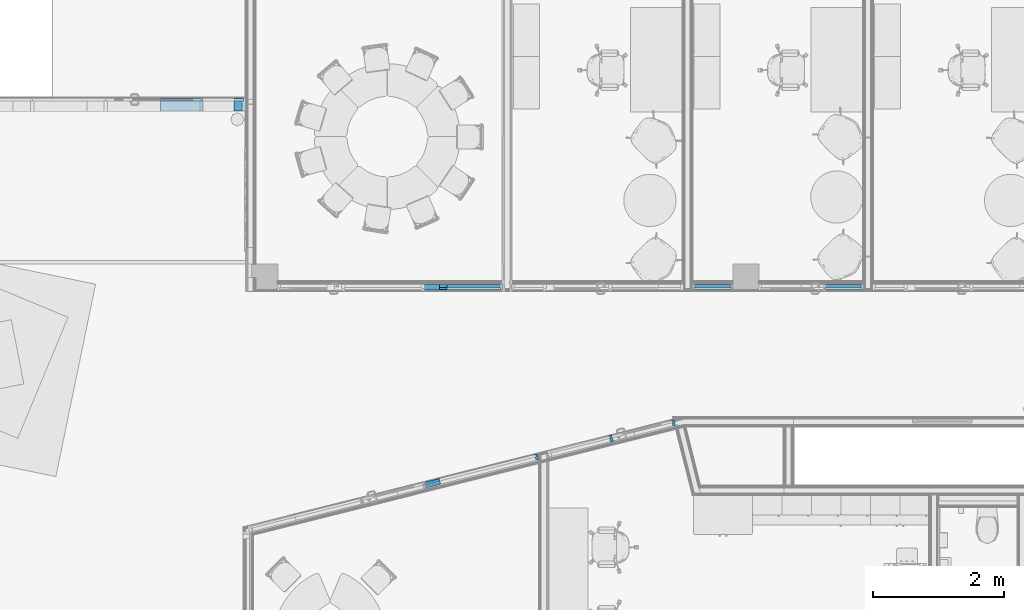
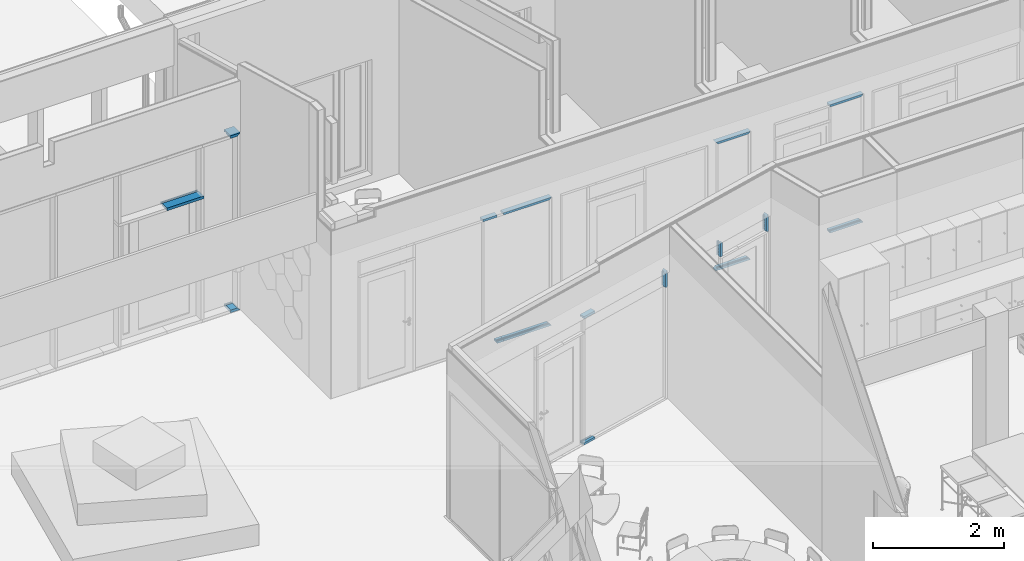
# One storey, part 36 of 153: 16 members, 6 elements without a shape of their own.
"""IFC2X3 building model written with IfcOpenShell, lengths in millimetres."""

from ifc_helpers import new_model, entity, si_unit, converted_unit, derived_unit, money_unit, direction, frame, origin_with_axes, place, context, subcontext, project, spatial, faceted_brep, material, type_object, element, aggregate, save


model = new_model("IFC2X3")

# Units and contexts
model_context = context("Model", 3, precision=0.01, world=origin_with_axes(), true_north=direction((0.0, 1.0)))
body_context = subcontext(model_context, "Body", "Model", "MODEL_VIEW")
ifc_project = project(units=[si_unit("LENGTHUNIT", "METRE", prefix="MILLI"), si_unit("AREAUNIT", "SQUARE_METRE"), si_unit("VOLUMEUNIT", "CUBIC_METRE"), converted_unit("PLANEANGLEUNIT", "DEGREE", entity("IfcPlaneAngleMeasure", 0.0174532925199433), si_unit("PLANEANGLEUNIT", "RADIAN"), dimensions=[0, 0, 0, 0, 0, 0, 0]), money_unit("EUR"), converted_unit("TIMEUNIT", "Year", entity("IfcTimeMeasure", 31557600.0), si_unit("TIMEUNIT", "SECOND"), dimensions=[0, 0, 1, 0, 0, 0, 0]), si_unit("MASSUNIT", "GRAM", prefix="KILO"), si_unit("THERMODYNAMICTEMPERATUREUNIT", "DEGREE_CELSIUS"), si_unit("LUMINOUSINTENSITYUNIT", "LUMEN"), si_unit("ENERGYUNIT", "JOULE", prefix="MEGA"), derived_unit("THERMALCONDUCTANCEUNIT", [(si_unit("POWERUNIT", "WATT"), 1), (si_unit("LENGTHUNIT", "METRE"), -1), (si_unit("THERMODYNAMICTEMPERATUREUNIT", "KELVIN"), -1)]), derived_unit("SPECIFICHEATCAPACITYUNIT", [(si_unit("ENERGYUNIT", "JOULE"), 1), (si_unit("MASSUNIT", "GRAM", prefix="KILO"), -1), (si_unit("THERMODYNAMICTEMPERATUREUNIT", "KELVIN"), -1)]), derived_unit("MASSDENSITYUNIT", [(si_unit("MASSUNIT", "GRAM", prefix="KILO"), 1), (si_unit("VOLUMEUNIT", "CUBIC_METRE"), -1)])], contexts=[model_context])

# Site, building, storey
site_placement = place(None, frame((0.0, 0.0, 8650.0), z_axis=(0.0, 0.0, 1.0), x_axis=(1.0, 0.0, 0.0)))
site = spatial("IfcSite", under=ifc_project, at=site_placement, Name="43301:001:0844", CompositionType="ELEMENT")
building_placement = place(site_placement, origin_with_axes())
building = spatial("IfcBuilding", under=site, at=building_placement, Name="Kuressaare Ametikooli tuulikute mehaanikute õppekorpus", CompositionType="ELEMENT")
storey_placement = place(building_placement, frame((0.0, 0.0, 4100.0), z_axis=(0.0, 0.0, 1.0), x_axis=(1.0, 0.0, 0.0)))
storey = spatial("IfcBuildingStorey", under=building, at=storey_placement, Name="2.korrus", CompositionType="ELEMENT", Elevation=4100.0)

# Curtain wall, members
curtain_wall_type = type_object("IfcCurtainWallType", Name="Curtain Wall Type", PredefinedType="NOTDEFINED")
curtain_wall_1_placement = place(storey_placement, frame((116907.3849272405, 26479.57374875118, 34.9999663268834), z_axis=(0.0, 0.0, 1.0), x_axis=(1.0, 0.0, 0.0)))
curtain_wall_1 = element("IfcCurtainWall", 1, at=curtain_wall_1_placement, inside=storey, type_object=curtain_wall_type, Name="SKF-2.2,EI60")
ifc_material = material(Name="Aluminium")
member_type_1 = type_object("IfcMemberType", Name="Boundary Frame 50 x 200", PredefinedType="NOTDEFINED")
member_1_placement = place(curtain_wall_1_placement, frame((1338.89088704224, 0.0, 3260.000027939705), z_axis=(-0.9999999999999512, 0.0, -3.126092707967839e-07), x_axis=(3.126092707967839e-07, 0.0, -0.9999999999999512)))
member_1 = element("IfcMember", 2, at=member_1_placement, type_object=member_type_1, material=ifc_material, context=body_context, shape_type="Brep", body=[
    faceted_brep([(4.999955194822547, 19.99999999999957, 143.3264490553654), (24.99995519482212, 19.99999999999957, 143.3264553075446), (24.99995519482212, 170.0000000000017, 143.3264553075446), (-25.00004480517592, 170.0000000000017, 143.3264396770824), (-25.00004480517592, -30.00000000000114, 143.3264396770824), (24.99995519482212, -30.00000000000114, 143.3264553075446), (24.99995519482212, -19.99999999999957, 143.3264553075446), (4.999955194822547, -19.99999999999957, 143.3264490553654), (4.999998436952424, 19.99999999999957, 5.000003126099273), (24.99999218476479, 19.99999999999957, 25.00001563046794), (24.99999218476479, 170.0000000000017, 25.00001563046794), (-24.99999218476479, 170.0000000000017, -25.00001563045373), (-24.99999218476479, -30.00000000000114, -25.00001563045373), (24.99999218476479, -30.00000000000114, 25.00001563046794), (24.99999218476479, -19.99999999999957, 25.00001563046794), (4.999998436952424, -19.99999999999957, 5.000003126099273)], [[[0, 1, 2, 3, 4, 5, 6, 7]], [[0, 8, 9, 1]], [[9, 10, 2, 1]], [[2, 10, 11, 3]], [[3, 11, 12, 4]], [[4, 12, 13, 5]], [[6, 5, 13, 14]], [[14, 15, 7, 6]], [[7, 15, 8, 0]], [[8, 15, 14, 13, 12, 11, 10, 9]]]),
])
member_2_placement = place(curtain_wall_1_placement, frame((1195.564447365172, 0.0, 0.0), z_axis=(1.0, 0.0, 0.0), x_axis=(0.0, 0.0, 1.0)))
member_2 = element("IfcMember", 3, at=member_2_placement, type_object=member_type_1, material=ifc_material, context=body_context, shape_type="Brep", body=[
    faceted_brep([(4.999999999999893, 19.99999999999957, 138.3264396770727), (25.00000000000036, 19.99999999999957, 118.3264396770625), (25.00000000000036, 170.0000000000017, 118.3264396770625), (-25.00000000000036, 170.0000000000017, 168.3264396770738), (-25.00000000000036, -30.00000000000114, 168.3264396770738), (25.00000000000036, -30.00000000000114, 118.3264396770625), (25.00000000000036, -19.99999999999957, 118.3264396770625), (4.999999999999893, -19.99999999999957, 138.3264396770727), (4.999999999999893, 19.99999999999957, 0.0), (25.00000000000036, 19.99999999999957, 0.0), (25.00000000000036, 170.0000000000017, 0.0), (-25.00000000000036, 170.0000000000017, 0.0), (-25.00000000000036, -30.00000000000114, 0.0), (25.00000000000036, -30.00000000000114, 0.0), (25.00000000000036, -19.99999999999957, 0.0), (4.999999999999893, -19.99999999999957, 0.0)], [[[0, 1, 2, 3, 4, 5, 6, 7]], [[0, 8, 9, 1]], [[9, 10, 2, 1]], [[10, 11, 3, 2]], [[11, 12, 4, 3]], [[12, 13, 5, 4]], [[6, 5, 13, 14]], [[14, 15, 7, 6]], [[7, 15, 8, 0]], [[8, 15, 14, 13, 12, 11, 10, 9]]]),
])
member_3_placement = place(curtain_wall_1_placement, frame((70.56444736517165, 0.0, 2300.000031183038), z_axis=(1.0, 0.0, 0.0), x_axis=(0.0, 0.0, 1.0)))
member_3 = element("IfcMember", 4, at=member_3_placement, type_object=member_type_1, material=ifc_material, context=body_context, shape_type="Brep", body=[
    faceted_brep([(-4.999999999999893, 19.99999999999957, 649.1533342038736), (-4.999999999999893, -19.99999999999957, 649.1533342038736), (-25.00000000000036, -19.99999999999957, 649.1533342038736), (-25.00000000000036, -30.00000000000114, 649.1533342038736), (25.00000000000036, -30.00000000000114, 649.1533342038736), (25.00000000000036, -19.99999999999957, 649.1533342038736), (4.999999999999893, -19.99999999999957, 649.1533342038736), (4.999999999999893, 19.99999999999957, 649.1533342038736), (25.00000000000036, 19.99999999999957, 649.1533342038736), (25.00000000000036, 170.0000000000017, 649.1533342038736), (-25.00000000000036, 170.0000000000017, 649.1533342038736), (-25.00000000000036, 19.99999999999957, 649.1533342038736), (-4.999999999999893, 19.99999999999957, 0.0), (-4.999999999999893, -19.99999999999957, 0.0), (-25.00000000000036, -19.99999999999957, 0.0), (-25.00000000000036, -30.00000000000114, 0.0), (25.00000000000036, -30.00000000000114, 0.0), (25.00000000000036, -19.99999999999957, 0.0), (4.999999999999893, -19.99999999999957, 0.0), (4.999999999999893, 19.99999999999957, 0.0), (25.00000000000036, 19.99999999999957, 0.0), (25.00000000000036, 170.0000000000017, 0.0), (-25.00000000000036, 170.0000000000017, 0.0), (-25.00000000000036, 19.99999999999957, 0.0)], [[[0, 1, 2, 3, 4, 5, 6, 7, 8, 9, 10, 11]], [[0, 12, 13, 1]], [[1, 13, 14, 2]], [[14, 15, 3, 2]], [[3, 15, 16, 4]], [[17, 5, 4, 16]], [[5, 17, 18, 6]], [[7, 6, 18, 19]], [[8, 7, 19, 20]], [[8, 20, 21, 9]], [[9, 21, 22, 10]], [[11, 10, 22, 23]], [[11, 23, 12, 0]], [[13, 12, 23, 22, 21, 20, 19, 18, 17, 16, 15, 14]]]),
])
aggregate(curtain_wall_1, [member_1, member_2, member_3])

curtain_wall_2_placement = place(storey_placement, frame((120547.3158940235, 20502.05468019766, 0.0), z_axis=(0.0, 0.0, 1.0), x_axis=(1.0, 0.0, 0.0)))
curtain_wall_2 = element("IfcCurtainWall", 5, at=curtain_wall_2_placement, inside=storey, type_object=curtain_wall_type, Name="PKF-2.2")
member_type_2 = type_object("IfcMemberType", Name="Boundary Frame 40 x 90", PredefinedType="NOTDEFINED")
member_4_placement = place(curtain_wall_2_placement, frame((691.717600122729, 173.4091667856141, 0.0), z_axis=(-0.9699839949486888, -0.2431687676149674, 0.0), x_axis=(0.0, 0.0, 1.0)))
member_4 = element("IfcMember", 6, at=member_4_placement, type_object=member_type_2, material=ifc_material, context=body_context, shape_type="Brep", body=[
    faceted_brep([(25.00000000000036, -14.99999999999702, 232.1839993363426), (25.00000000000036, 15.00000000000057, 232.1839993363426), (40.00000000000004, 15.00000000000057, 232.1839993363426), (40.00000000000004, 25.00000000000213, 232.1839993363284), (0.0, 25.00000000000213, 232.1839993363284), (0.0, 0.0, 232.1839993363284), (0.0, -64.99999999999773, 232.1839993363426), (40.00000000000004, -64.99999999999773, 232.1839993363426), (40.00000000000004, -14.99999999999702, 232.1839993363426), (25.00000000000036, -14.99999999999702, 0.0), (25.00000000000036, 14.99999999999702, 0.0), (40.00000000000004, 14.99999999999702, 0.0), (40.00000000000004, 24.99999999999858, 0.0), (0.0, 24.99999999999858, 0.0), (0.0, 0.0, 0.0), (0.0, -64.99999999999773, 0.0), (40.00000000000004, -64.99999999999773, 0.0), (40.00000000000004, -14.99999999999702, 0.0)], [[[0, 1, 2, 3, 4, 5, 6, 7, 8]], [[1, 0, 9, 10]], [[11, 2, 1, 10]], [[2, 11, 12, 3]], [[13, 4, 3, 12]], [[14, 5, 4, 13]], [[15, 6, 5, 14]], [[16, 7, 6, 15]], [[17, 8, 7, 16]], [[0, 8, 17, 9]], [[9, 17, 16, 15, 14, 13, 12, 11, 10]]]),
])
member_5_placement = place(curtain_wall_2_placement, frame((691.717600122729, 173.4091667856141, 2400.000049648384), z_axis=(-0.9699839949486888, -0.2431687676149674, 0.0), x_axis=(0.0, 0.0, 1.0)))
member_5 = element("IfcMember", 7, at=member_5_placement, type_object=member_type_2, material=ifc_material, context=body_context, shape_type="Brep", body=[
    faceted_brep([(-25.00000000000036, -14.99999999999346, 232.1839993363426), (-40.00000000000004, -14.99999999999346, 232.1839993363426), (-40.00000000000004, -64.99999999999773, 232.1839993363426), (0.0, -64.99999999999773, 232.1839993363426), (0.0, 0.0, 232.1839993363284), (0.0, 24.99999999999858, 232.1839993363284), (-40.00000000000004, 24.99999999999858, 232.1839993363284), (-40.00000000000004, 14.99999999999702, 232.1839993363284), (-25.00000000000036, 14.99999999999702, 232.1839993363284), (-25.00000000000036, -14.99999999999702, 0.0), (-40.00000000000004, -14.99999999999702, 0.0), (-40.00000000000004, -64.99999999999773, 0.0), (0.0, -64.99999999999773, 0.0), (0.0, 0.0, 0.0), (0.0, 24.99999999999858, 0.0), (-40.00000000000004, 24.99999999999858, 0.0), (-40.00000000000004, 14.99999999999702, 0.0), (-25.00000000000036, 14.99999999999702, 0.0)], [[[0, 1, 2, 3, 4, 5, 6, 7, 8]], [[0, 9, 10, 1]], [[10, 11, 2, 1]], [[11, 12, 3, 2]], [[12, 13, 4, 3]], [[13, 14, 5, 4]], [[14, 15, 6, 5]], [[7, 6, 15, 16]], [[16, 17, 8, 7]], [[8, 17, 9, 0]], [[9, 17, 16, 15, 14, 13, 12, 11, 10]]]),
])
member_6_placement = place(curtain_wall_2_placement, frame((2187.842480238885, 548.4780804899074, 2400.000049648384), z_axis=(0.0, 0.0, -1.0), x_axis=(-0.9699839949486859, -0.2431687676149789, 0.0)))
member_6 = element("IfcMember", 8, at=member_6_placement, type_object=member_type_2, material=ifc_material, context=body_context, shape_type="Brep", body=[
    faceted_brep([(25.00000000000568, -14.99999999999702, 300.0000156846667), (25.00000000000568, 15.00000000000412, 300.0000156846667), (40.00000000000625, 15.00000000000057, 300.0000156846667), (39.99999999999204, 25.00000000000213, 300.0000156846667), (0.0, 25.00000000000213, 300.0000156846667), (0.0, 0.0, 300.0000156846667), (0.0, -64.99999999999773, 300.0000156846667), (40.00000000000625, -64.99999999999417, 300.0000156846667), (39.99999999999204, -15.00000000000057, 300.0000156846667), (25.00000000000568, -14.99999999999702, 25.00000000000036), (25.00000000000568, 15.00000000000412, 25.00000000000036), (40.00000000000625, 15.00000000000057, 40.00000000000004), (39.99999999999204, 25.00000000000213, 40.00000000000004), (0.0, 25.00000000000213, 0.0), (0.0, 0.0, 0.0), (0.0, -64.99999999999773, 0.0), (40.00000000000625, -64.99999999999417, 40.00000000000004), (39.99999999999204, -15.00000000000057, 40.00000000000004)], [[[0, 1, 2, 3, 4, 5, 6, 7, 8]], [[1, 0, 9, 10]], [[11, 2, 1, 10]], [[2, 11, 12, 3]], [[4, 3, 12, 13]], [[5, 4, 13, 14]], [[6, 5, 14, 15]], [[7, 6, 15, 16]], [[17, 8, 7, 16]], [[0, 8, 17, 9]], [[9, 17, 16, 15, 14, 13, 12, 11, 10]]]),
])
aggregate(curtain_wall_2, [member_4, member_5, member_6])

# Curtain wall, member
curtain_wall_3_placement = place(storey_placement, frame((123471.3194861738, 21235.04693506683, 4.768376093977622e-05), z_axis=(0.0, 0.0, 1.0), x_axis=(1.0, 0.0, 0.0)))
curtain_wall_3 = element("IfcCurtainWall", 9, at=curtain_wall_3_placement, inside=storey, type_object=curtain_wall_type, Name="PKF-2.3")
member_7_placement = place(curtain_wall_3_placement, frame((1352.64886301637, 339.0329700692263, 2399.999999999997), z_axis=(0.0, 0.0, -1.0), x_axis=(-0.9699953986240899, -0.2431232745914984, 0.0)))
member_7 = element("IfcMember", 10, at=member_7_placement, type_object=member_type_2, material=ifc_material, context=body_context, shape_type="Brep", body=[
    faceted_brep([(25.00000000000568, -15.00000000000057, 307.500031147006), (25.00000000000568, 15.00000000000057, 307.500031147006), (40.00000000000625, 14.99999999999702, 300.0000311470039), (40.00000000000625, 24.99999999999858, 300.0000311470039), (0.0, 24.99999999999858, 320.0000311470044), (0.0, 0.0, 320.0000311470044), (0.0, -64.99999999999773, 320.0000311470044), (40.00000000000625, -65.00000000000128, 300.0000311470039), (40.00000000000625, -15.00000000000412, 300.0000311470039), (25.00000000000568, -15.00000000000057, 25.00000000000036), (25.00000000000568, 15.00000000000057, 25.00000000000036), (40.00000000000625, 14.99999999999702, 40.00000000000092), (40.00000000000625, 24.99999999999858, 40.00000000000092), (0.0, 24.99999999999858, 0.0), (0.0, 0.0, 0.0), (0.0, -64.99999999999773, 0.0), (40.00000000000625, -65.00000000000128, 40.00000000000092), (40.00000000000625, -15.00000000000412, 40.00000000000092)], [[[0, 1, 2, 3, 4, 5, 6, 7, 8]], [[1, 0, 9, 10]], [[11, 2, 1, 10]], [[2, 11, 12, 3]], [[3, 12, 13, 4]], [[4, 13, 14, 5]], [[5, 14, 15, 6]], [[6, 15, 16, 7]], [[17, 8, 7, 16]], [[0, 8, 17, 9]], [[9, 17, 16, 15, 14, 13, 12, 11, 10]]]),
])

# Curtain wall, members
curtain_wall_4_placement = place(storey_placement, frame((119422.8886145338, 23599.06892395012, 7.49398259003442e-05), z_axis=(0.0, 0.0, 1.0), x_axis=(1.0, 0.0, 0.0)))
curtain_wall_4 = element("IfcCurtainWall", 11, at=curtain_wall_4_placement, inside=storey, type_object=curtain_wall_type, Name="PKF-1.1")
member_8_placement = place(curtain_wall_4_placement, frame((1812.222485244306, 0.0, -7.493982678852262e-05), z_axis=(1.0, 0.0, 0.0), x_axis=(0.0, 0.0, 1.0)))
member_8 = element("IfcMember", 12, at=member_8_placement, type_object=member_type_2, material=ifc_material, context=body_context, shape_type="Brep", body=[
    faceted_brep([(25.00000000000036, -15.00000000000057, 114.5608928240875), (25.00000000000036, 15.00000000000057, 114.5608928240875), (40.00000000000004, 15.00000000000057, 114.5608928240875), (40.00000000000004, 24.99999999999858, 114.5608928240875), (0.0, 24.99999999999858, 114.5608928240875), (0.0, 0.0, 114.5608928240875), (0.0, -65.00000000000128, 114.5608928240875), (40.00000000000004, -65.00000000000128, 114.5608928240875), (40.00000000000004, -15.00000000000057, 114.5608928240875), (25.00000000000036, -15.00000000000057, 0.0), (25.00000000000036, 15.00000000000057, 0.0), (40.00000000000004, 15.00000000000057, 0.0), (40.00000000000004, 24.99999999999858, 0.0), (0.0, 24.99999999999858, 0.0), (0.0, 0.0, 0.0), (0.0, -65.00000000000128, 0.0), (40.00000000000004, -65.00000000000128, 0.0), (40.00000000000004, -15.00000000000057, 0.0)], [[[0, 1, 2, 3, 4, 5, 6, 7, 8]], [[1, 0, 9, 10]], [[11, 2, 1, 10]], [[2, 11, 12, 3]], [[13, 4, 3, 12]], [[14, 5, 4, 13]], [[15, 6, 5, 14]], [[16, 7, 6, 15]], [[17, 8, 7, 16]], [[0, 8, 17, 9]], [[9, 17, 16, 15, 14, 13, 12, 11, 10]]]),
])
member_9_placement = place(curtain_wall_4_placement, frame((1559.618853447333, 0.0, 2399.999972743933), z_axis=(1.0, 0.0, 0.0), x_axis=(0.0, 0.0, 1.0)))
member_9 = element("IfcMember", 13, at=member_9_placement, type_object=member_type_2, material=ifc_material, context=body_context, shape_type="Brep", body=[
    faceted_brep([(-25.00000000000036, -15.00000000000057, 252.6036317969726), (-40.00000000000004, -15.00000000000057, 252.6036317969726), (-40.00000000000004, -65.00000000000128, 252.6036317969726), (0.0, -65.00000000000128, 252.6036317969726), (0.0, 0.0, 252.6036317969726), (0.0, 24.99999999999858, 252.6036317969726), (-40.00000000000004, 24.99999999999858, 252.6036317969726), (-40.00000000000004, 15.00000000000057, 252.6036317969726), (-25.00000000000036, 15.00000000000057, 252.6036317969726), (-25.00000000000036, -15.00000000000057, 0.0), (-40.00000000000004, -15.00000000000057, 0.0), (-40.00000000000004, -65.00000000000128, 0.0), (0.0, -65.00000000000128, 0.0), (0.0, 0.0, 0.0), (0.0, 24.99999999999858, 0.0), (-40.00000000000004, 24.99999999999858, 0.0), (-40.00000000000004, 15.00000000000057, 0.0), (-25.00000000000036, 15.00000000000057, 0.0)], [[[0, 1, 2, 3, 4, 5, 6, 7, 8]], [[0, 9, 10, 1]], [[10, 11, 2, 1]], [[11, 12, 3, 2]], [[12, 13, 4, 3]], [[13, 14, 5, 4]], [[14, 15, 6, 5]], [[7, 6, 15, 16]], [[16, 17, 8, 7]], [[8, 17, 9, 0]], [[9, 17, 16, 15, 14, 13, 12, 11, 10]]]),
])
member_10_placement = place(curtain_wall_4_placement, frame((1926.783378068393, 0.0, 2399.999972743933), z_axis=(1.0, 0.0, 0.0), x_axis=(0.0, 0.0, 1.0)))
member_10 = element("IfcMember", 14, at=member_10_placement, type_object=member_type_2, material=ifc_material, context=body_context, shape_type="Brep", body=[
    faceted_brep([(-25.00000000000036, -15.00000000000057, 822.3964203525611), (-40.00000000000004, -15.00000000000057, 807.3964203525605), (-40.00000000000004, -65.00000000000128, 807.3964203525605), (0.0, -65.00000000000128, 847.3964203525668), (0.0, 0.0, 847.3964203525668), (0.0, 24.99999999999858, 847.3964203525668), (-40.00000000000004, 24.99999999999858, 807.3964203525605), (-40.00000000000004, 15.00000000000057, 807.3964203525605), (-25.00000000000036, 15.00000000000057, 822.3964203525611), (-25.00000000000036, -15.00000000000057, 0.0), (-40.00000000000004, -15.00000000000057, 0.0), (-40.00000000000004, -65.00000000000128, 0.0), (0.0, -65.00000000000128, 0.0), (0.0, 0.0, 0.0), (0.0, 24.99999999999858, 0.0), (-40.00000000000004, 24.99999999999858, 0.0), (-40.00000000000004, 15.00000000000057, 0.0), (-25.00000000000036, 15.00000000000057, 0.0)], [[[0, 1, 2, 3, 4, 5, 6, 7, 8]], [[0, 9, 10, 1]], [[10, 11, 2, 1]], [[11, 12, 3, 2]], [[12, 13, 4, 3]], [[13, 14, 5, 4]], [[14, 15, 6, 5]], [[7, 6, 15, 16]], [[16, 17, 8, 7]], [[8, 17, 9, 0]], [[9, 17, 16, 15, 14, 13, 12, 11, 10]]]),
])
member_11_placement = place(curtain_wall_4_placement, frame((1926.783378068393, 0.0, -7.493982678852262e-05), z_axis=(1.0, 0.0, 0.0), x_axis=(0.0, 0.0, 1.0)))
member_11 = element("IfcMember", 15, at=member_11_placement, type_object=member_type_2, material=ifc_material, context=body_context, shape_type="Brep", body=[
    faceted_brep([(25.00000000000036, -15.00000000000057, 822.3964203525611), (25.00000000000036, 15.00000000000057, 822.3964203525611), (40.00000000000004, 15.00000000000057, 807.3964203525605), (40.00000000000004, 24.99999999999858, 807.3964203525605), (0.0, 24.99999999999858, 847.3964203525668), (0.0, 0.0, 847.3964203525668), (0.0, -65.00000000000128, 847.3964203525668), (40.00000000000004, -65.00000000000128, 807.3964203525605), (40.00000000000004, -15.00000000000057, 807.3964203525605), (25.00000000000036, -15.00000000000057, 0.0), (25.00000000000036, 15.00000000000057, 0.0), (40.00000000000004, 15.00000000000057, 0.0), (40.00000000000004, 24.99999999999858, 0.0), (0.0, 24.99999999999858, 0.0), (0.0, 0.0, 0.0), (0.0, -65.00000000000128, 0.0), (40.00000000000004, -65.00000000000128, 0.0), (40.00000000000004, -15.00000000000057, 0.0)], [[[0, 1, 2, 3, 4, 5, 6, 7, 8]], [[1, 0, 9, 10]], [[11, 2, 1, 10]], [[2, 11, 12, 3]], [[13, 4, 3, 12]], [[14, 5, 4, 13]], [[15, 6, 5, 14]], [[16, 7, 6, 15]], [[17, 8, 7, 16]], [[0, 8, 17, 9]], [[9, 17, 16, 15, 14, 13, 12, 11, 10]]]),
])
aggregate(curtain_wall_4, [member_8, member_9, member_10, member_11])

curtain_wall_5_placement = place(storey_placement, frame((125409.5683670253, 23599.06892395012, 7.152564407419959e-05), z_axis=(0.0, 0.0, 1.0), x_axis=(1.0, 0.0, 0.0)))
curtain_wall_5 = element("IfcCurtainWall", 16, at=curtain_wall_5_placement, inside=storey, type_object=curtain_wall_type, Name="PKF-1.3")
member_12_placement = place(curtain_wall_5_placement, frame((-308.500043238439, 0.0, 2399.999999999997), z_axis=(1.0, 0.0, 0.0), x_axis=(0.0, 0.0, 1.0)))
member_12 = element("IfcMember", 17, at=member_12_placement, type_object=member_type_2, material=ifc_material, context=body_context, shape_type="Brep", body=[
    faceted_brep([(-25.00000000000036, -15.00000000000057, 592.0000864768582), (-40.00000000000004, -15.00000000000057, 577.0000864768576), (-40.00000000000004, -65.00000000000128, 577.0000864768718), (0.0, -65.00000000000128, 617.0000864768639), (0.0, 0.0, 617.0000864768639), (0.0, 24.99999999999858, 617.0000864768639), (-40.00000000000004, 24.99999999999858, 577.0000864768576), (-40.00000000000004, 15.00000000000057, 577.0000864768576), (-25.00000000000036, 15.00000000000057, 592.0000864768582), (-25.00000000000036, -15.00000000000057, 25.00000000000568), (-40.00000000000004, -15.00000000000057, 40.00000000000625), (-40.00000000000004, -64.99999999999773, 40.00000000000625), (0.0, -65.00000000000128, 0.0), (0.0, 0.0, 0.0), (0.0, 24.99999999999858, 0.0), (-40.00000000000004, 25.00000000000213, 40.00000000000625), (-40.00000000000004, 15.00000000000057, 40.00000000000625), (-25.00000000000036, 15.00000000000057, 25.00000000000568)], [[[0, 1, 2, 3, 4, 5, 6, 7, 8]], [[0, 9, 10, 1]], [[10, 11, 2, 1]], [[2, 11, 12, 3]], [[3, 12, 13, 4]], [[4, 13, 14, 5]], [[5, 14, 15, 6]], [[7, 6, 15, 16]], [[16, 17, 8, 7]], [[8, 17, 9, 0]], [[9, 17, 16, 15, 14, 13, 12, 11, 10]]]),
])
member_13_placement = place(curtain_wall_5_placement, frame((-308.500043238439, 0.0, -7.152564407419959e-05), z_axis=(1.0, 0.0, 0.0), x_axis=(0.0, 0.0, 1.0)))
member_13 = element("IfcMember", 18, at=member_13_placement, type_object=member_type_2, material=ifc_material, context=body_context, shape_type="Brep", body=[
    faceted_brep([(25.00000000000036, -15.00000000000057, 592.0000864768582), (25.00000000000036, 15.00000000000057, 592.0000864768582), (40.00000000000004, 15.00000000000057, 577.0000864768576), (40.00000000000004, 24.99999999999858, 577.0000864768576), (0.0, 24.99999999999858, 617.0000864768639), (0.0, 0.0, 617.0000864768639), (0.0, -65.00000000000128, 617.0000864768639), (40.00000000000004, -65.00000000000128, 577.0000864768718), (40.00000000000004, -15.00000000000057, 577.0000864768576), (25.00000000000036, -15.00000000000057, 25.00000000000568), (25.00000000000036, 15.00000000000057, 25.00000000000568), (40.00000000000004, 15.00000000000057, 40.00000000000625), (40.00000000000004, 25.00000000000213, 40.00000000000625), (0.0, 24.99999999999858, 0.0), (0.0, 0.0, 0.0), (0.0, -65.00000000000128, 0.0), (40.00000000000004, -64.99999999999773, 40.00000000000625), (40.00000000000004, -15.00000000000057, 40.00000000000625)], [[[0, 1, 2, 3, 4, 5, 6, 7, 8]], [[1, 0, 9, 10]], [[11, 2, 1, 10]], [[2, 11, 12, 3]], [[4, 3, 12, 13]], [[5, 4, 13, 14]], [[6, 5, 14, 15]], [[7, 6, 15, 16]], [[17, 8, 7, 16]], [[0, 8, 17, 9]], [[9, 17, 16, 15, 14, 13, 12, 11, 10]]]),
])
aggregate(curtain_wall_5, [member_12, member_13])

curtain_wall_6_placement = place(storey_placement, frame((126664.0825969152, 23599.06892395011, 9.536752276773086e-05), z_axis=(0.0, 0.0, 1.0), x_axis=(1.0, 0.0, 0.0)))
curtain_wall_6 = element("IfcCurtainWall", 19, at=curtain_wall_6_placement, inside=storey, type_object=curtain_wall_type, Name="PKF-1.4")
member_14_placement = place(curtain_wall_6_placement, frame((453.9857702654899, 0.0, 2399.999976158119), z_axis=(1.0, 0.0, 0.0), x_axis=(0.0, 0.0, 1.0)))
member_14 = element("IfcMember", 20, at=member_14_placement, type_object=member_type_2, material=ifc_material, context=body_context, shape_type="Brep", body=[
    faceted_brep([(-25.00000000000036, -15.00000000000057, 568.0000235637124), (-40.00000000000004, -15.00000000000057, 553.0000235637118), (-40.00000000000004, -65.00000000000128, 553.0000235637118), (0.0, -65.00000000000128, 593.0000235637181), (0.0, 0.0, 593.0000235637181), (0.0, 24.99999999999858, 593.0000235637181), (-40.00000000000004, 24.99999999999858, 553.0000235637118), (-40.00000000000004, 15.00000000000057, 553.0000235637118), (-25.00000000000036, 15.00000000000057, 568.0000235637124), (-25.00000000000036, -15.00000000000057, 0.0), (-40.00000000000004, -15.00000000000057, 0.0), (-40.00000000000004, -65.00000000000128, 0.0), (0.0, -65.00000000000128, 0.0), (0.0, 0.0, 0.0), (0.0, 24.99999999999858, 0.0), (-40.00000000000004, 24.99999999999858, 0.0), (-40.00000000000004, 15.00000000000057, 0.0), (-25.00000000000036, 15.00000000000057, 0.0)], [[[0, 1, 2, 3, 4, 5, 6, 7, 8]], [[0, 9, 10, 1]], [[10, 11, 2, 1]], [[11, 12, 3, 2]], [[12, 13, 4, 3]], [[13, 14, 5, 4]], [[14, 15, 6, 5]], [[7, 6, 15, 16]], [[16, 17, 8, 7]], [[8, 17, 9, 0]], [[9, 17, 16, 15, 14, 13, 12, 11, 10]]]),
])
member_15_placement = place(curtain_wall_6_placement, frame((453.9857702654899, 0.0, -9.536752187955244e-05), z_axis=(1.0, 0.0, 0.0), x_axis=(0.0, 0.0, 1.0)))
member_15 = element("IfcMember", 21, at=member_15_placement, type_object=member_type_2, material=ifc_material, context=body_context, shape_type="Brep", body=[
    faceted_brep([(25.00000000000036, -15.00000000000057, 568.0000235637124), (25.00000000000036, 15.00000000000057, 568.0000235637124), (40.00000000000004, 15.00000000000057, 553.0000235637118), (40.00000000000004, 24.99999999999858, 553.0000235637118), (0.0, 24.99999999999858, 593.0000235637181), (0.0, 0.0, 593.0000235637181), (0.0, -65.00000000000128, 593.0000235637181), (40.00000000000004, -65.00000000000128, 553.0000235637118), (40.00000000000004, -15.00000000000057, 553.0000235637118), (25.00000000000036, -15.00000000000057, 0.0), (25.00000000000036, 15.00000000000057, 0.0), (40.00000000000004, 15.00000000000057, 0.0), (40.00000000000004, 24.99999999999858, 0.0), (0.0, 24.99999999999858, 0.0), (0.0, 0.0, 0.0), (0.0, -65.00000000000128, 0.0), (40.00000000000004, -65.00000000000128, 0.0), (40.00000000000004, -15.00000000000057, 0.0)], [[[0, 1, 2, 3, 4, 5, 6, 7, 8]], [[1, 0, 9, 10]], [[11, 2, 1, 10]], [[2, 11, 12, 3]], [[13, 4, 3, 12]], [[14, 5, 4, 13]], [[15, 6, 5, 14]], [[16, 7, 6, 15]], [[17, 8, 7, 16]], [[0, 8, 17, 9]], [[9, 17, 16, 15, 14, 13, 12, 11, 10]]]),
])
aggregate(curtain_wall_6, [member_14, member_15])

# Member
member_type_3 = type_object("IfcMemberType", Name="Mullion Frame 40 x 90", PredefinedType="NOTDEFINED")
member_16_placement = place(curtain_wall_3_placement, frame((382.6535227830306, 95.90971011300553, 2079.999968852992), z_axis=(0.0, 0.0, 1.0), x_axis=(0.9699953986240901, 0.2431232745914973, 0.0)))
member_16 = element("IfcMember", 22, at=member_16_placement, type_object=member_type_3, material=ifc_material, context=body_context, shape_type="Brep", body=[
    faceted_brep([(-4.999999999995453, -15.00000000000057, 280.0000311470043), (-19.99999999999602, -15.00000000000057, 280.0000311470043), (-20.00000000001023, -65.00000000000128, 280.0000311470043), (20.00000000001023, -64.99999999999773, 280.0000311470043), (19.99999999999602, -14.99999999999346, 280.0000311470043), (4.999999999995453, -14.99999999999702, 280.0000311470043), (4.999999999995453, 15.00000000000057, 280.0000311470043), (19.99999999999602, 15.00000000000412, 280.0000311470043), (20.00000000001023, 24.99999999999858, 280.0000311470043), (-19.99999999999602, 25.00000000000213, 280.0000311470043), (-19.99999999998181, 15.00000000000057, 280.0000311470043), (-5.000000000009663, 15.00000000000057, 280.0000311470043), (-4.999999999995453, -15.00000000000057, 19.99999999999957), (-19.99999999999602, -15.00000000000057, 19.99999999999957), (-20.00000000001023, -65.00000000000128, 19.99999999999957), (20.00000000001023, -64.99999999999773, 19.99999999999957), (19.99999999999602, -14.99999999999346, 19.99999999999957), (4.999999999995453, -14.99999999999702, 19.99999999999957), (4.999999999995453, 15.00000000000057, 19.99999999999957), (19.99999999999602, 15.00000000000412, 19.99999999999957), (20.00000000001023, 24.99999999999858, 19.99999999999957), (-19.99999999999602, 25.00000000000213, 19.99999999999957), (-19.99999999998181, 15.00000000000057, 19.99999999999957), (-5.000000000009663, 15.00000000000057, 19.99999999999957)], [[[0, 1, 2, 3, 4, 5, 6, 7, 8, 9, 10, 11]], [[1, 0, 12, 13]], [[1, 13, 14, 2]], [[2, 14, 15, 3]], [[4, 3, 15, 16]], [[4, 16, 17, 5]], [[5, 17, 18, 6]], [[7, 6, 18, 19]], [[19, 20, 8, 7]], [[8, 20, 21, 9]], [[22, 10, 9, 21]], [[11, 10, 22, 23]], [[0, 11, 23, 12]], [[23, 22, 21, 20, 19, 18, 17, 16, 15, 14, 13, 12]]]),
])

aggregate(curtain_wall_3, [member_16, member_7])

save(model, "model.ifc")
